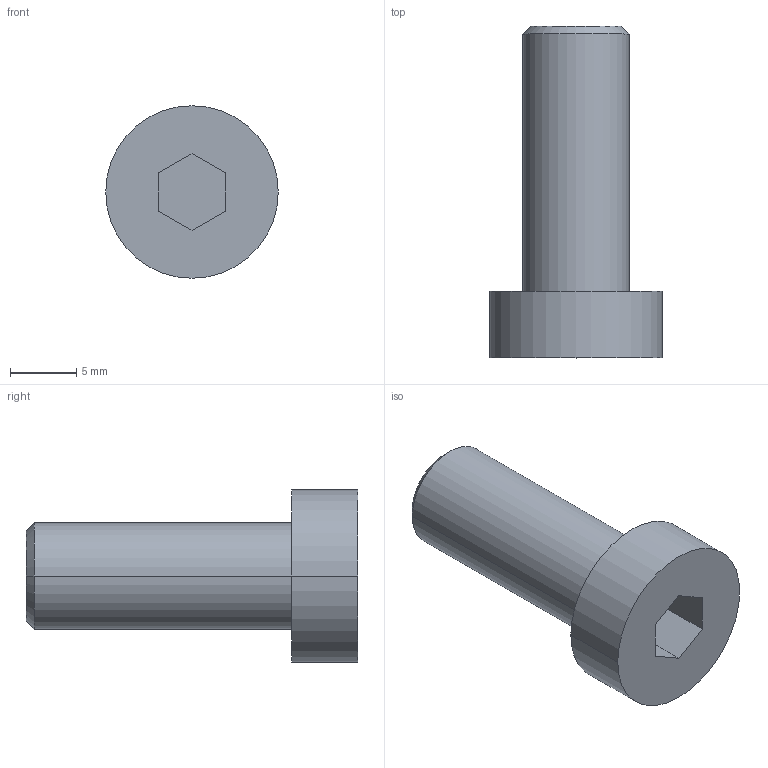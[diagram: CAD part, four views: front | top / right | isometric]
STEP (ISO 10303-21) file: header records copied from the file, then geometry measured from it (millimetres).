
FILE_DESCRIPTION((''),'2;1');
FILE_NAME('VTCEI0820','2002-12-27T',('Lipro doo'),('Lipro d.o.o.'),'PRO/ENGINEER BY PARAMETRIC TECHNOLOGY CORPORATION, 2001150','PRO/ENGINEER BY PARAMETRIC TECHNOLOGY CORPORATION, 2001150','');
FILE_SCHEMA(('CONFIG_CONTROL_DESIGN'));
Length unit declared in the file: millimetre
Products named in the file (1): VTCEI0820
Bounding box: 13 x 25 x 13 mm (x, y, z)
Volume: 1582.4 mm3; surface area: 1456.1 mm2
Topology: 1 solids, 2 shells, 18 faces, 40 edges, 26 vertices
Faces by surface type: plane 10, cylinder 6, cone 2
Entity records: 546 total; most frequent: DIRECTION 92, CARTESIAN_POINT 85, ORIENTED_EDGE 76, EDGE_CURVE 40, AXIS2_PLACEMENT_3D 33, VECTOR 26, LINE 26, VERTEX_POINT 26
